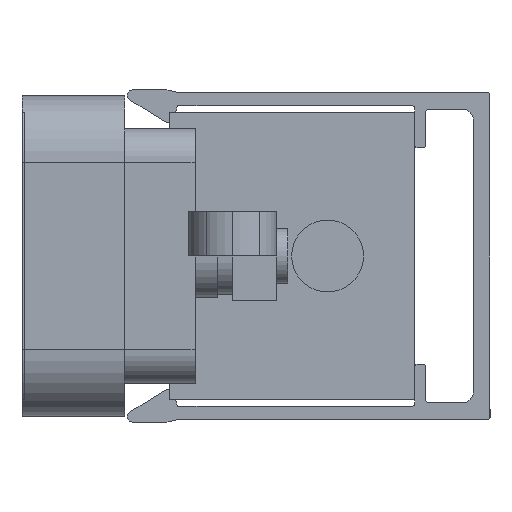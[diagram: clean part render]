
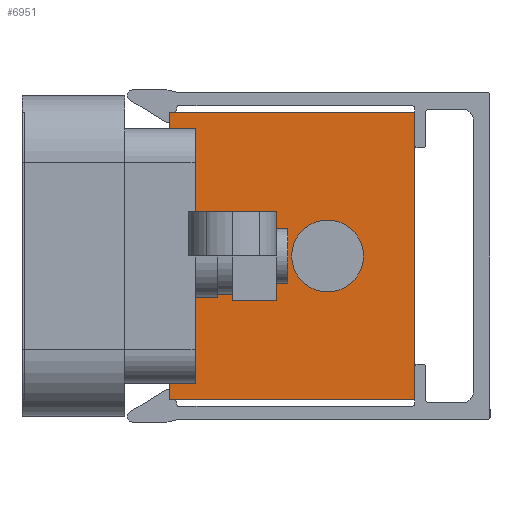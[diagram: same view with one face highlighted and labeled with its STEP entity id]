
A CAD part, left-side view. The second image highlights one B-rep face of the part: STEP entity #6951.
In plain terms, the highlighted planar face has unit normal (-1, 0, 0).
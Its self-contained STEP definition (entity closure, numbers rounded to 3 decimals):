
#47 = CARTESIAN_POINT ( 'NONE',  ( -46., 22.2, 11.5 ) ) ;
#105 = LINE ( 'NONE', #5104, #5785 ) ;
#180 = VERTEX_POINT ( 'NONE', #709 ) ;
#510 = CARTESIAN_POINT ( 'NONE',  ( -46., 19.9, -13. ) ) ;
#709 = CARTESIAN_POINT ( 'NONE',  ( -46., 19.9, 3.75 ) ) ;
#927 = CARTESIAN_POINT ( 'NONE',  ( -46., 0., 0. ) ) ;
#931 = VECTOR ( 'NONE', #4901, 1000. ) ;
#1025 = CARTESIAN_POINT ( 'NONE',  ( -46., 22.2, -13. ) ) ;
#1184 = ORIENTED_EDGE ( 'NONE', *, *, #6688, .T. ) ;
#1374 = DIRECTION ( 'NONE',  ( 0., 0., 1. ) ) ;
#1440 = DIRECTION ( 'NONE',  ( 0., 0., -1. ) ) ;
#1489 = AXIS2_PLACEMENT_3D ( 'NONE', #7501, #6134, #5563 ) ;
#1513 = DIRECTION ( 'NONE',  ( 0., -1., 0. ) ) ;
#1517 = LINE ( 'NONE', #4382, #3748 ) ;
#1525 = LINE ( 'NONE', #3936, #5809 ) ;
#1655 = CARTESIAN_POINT ( 'NONE',  ( -46., 0., 13. ) ) ;
#1660 = CARTESIAN_POINT ( 'NONE',  ( -46., 17.9, -3.75 ) ) ;
#1671 = EDGE_CURVE ( 'NONE', #6413, #6413, #4972, .T. ) ;
#1672 = EDGE_CURVE ( 'NONE', #7495, #3305, #5436, .T. ) ;
#1695 = LINE ( 'NONE', #1660, #3315 ) ;
#1806 = VECTOR ( 'NONE', #2671, 1000. ) ;
#1969 = ORIENTED_EDGE ( 'NONE', *, *, #1671, .F. ) ;
#2002 = EDGE_LOOP ( 'NONE', ( #1969 ) ) ;
#2036 = ORIENTED_EDGE ( 'NONE', *, *, #3902, .T. ) ;
#2274 = VERTEX_POINT ( 'NONE', #4978 ) ;
#2335 = VECTOR ( 'NONE', #4932, 1000. ) ;
#2342 = CARTESIAN_POINT ( 'NONE',  ( -46., 19.9, -13. ) ) ;
#2411 = CARTESIAN_POINT ( 'NONE',  ( -46., 17.9, 3.75 ) ) ;
#2511 = ORIENTED_EDGE ( 'NONE', *, *, #4470, .F. ) ;
#2525 = CARTESIAN_POINT ( 'NONE',  ( -46., 22.2, 11.5 ) ) ;
#2671 = DIRECTION ( 'NONE',  ( 0., 1., 0. ) ) ;
#2738 = LINE ( 'NONE', #4535, #7652 ) ;
#2739 = PLANE ( 'NONE',  #1489 ) ;
#2750 = VERTEX_POINT ( 'NONE', #6384 ) ;
#2822 = LINE ( 'NONE', #510, #5971 ) ;
#2926 = LINE ( 'NONE', #2342, #3417 ) ;
#2963 = EDGE_CURVE ( 'NONE', #3305, #180, #2822, .T. ) ;
#3001 = CARTESIAN_POINT ( 'NONE',  ( -46., 7.9, 0. ) ) ;
#3037 = LINE ( 'NONE', #2411, #931 ) ;
#3047 = CARTESIAN_POINT ( 'NONE',  ( -46., 22.2, 13. ) ) ;
#3126 = EDGE_LOOP ( 'NONE', ( #7417, #4206, #2511, #5975, #7577, #6839, #5945, #1184, #6872, #2036, #3675, #4046 ) ) ;
#3302 = EDGE_CURVE ( 'NONE', #5325, #2750, #2738, .T. ) ;
#3305 = VERTEX_POINT ( 'NONE', #6831 ) ;
#3315 = VECTOR ( 'NONE', #7053, 1000. ) ;
#3417 = VECTOR ( 'NONE', #5967, 1000. ) ;
#3616 = VERTEX_POINT ( 'NONE', #5577 ) ;
#3675 = ORIENTED_EDGE ( 'NONE', *, *, #1672, .T. ) ;
#3748 = VECTOR ( 'NONE', #1440, 1000. ) ;
#3901 = EDGE_CURVE ( 'NONE', #7171, #2274, #6887, .T. ) ;
#3902 = EDGE_CURVE ( 'NONE', #3616, #7495, #1525, .T. ) ;
#3936 = CARTESIAN_POINT ( 'NONE',  ( -46., 22.2, -13. ) ) ;
#4046 = ORIENTED_EDGE ( 'NONE', *, *, #2963, .T. ) ;
#4206 = ORIENTED_EDGE ( 'NONE', *, *, #6881, .T. ) ;
#4382 = CARTESIAN_POINT ( 'NONE',  ( -46., 17.9, 0. ) ) ;
#4467 = LINE ( 'NONE', #927, #4749 ) ;
#4470 = EDGE_CURVE ( 'NONE', #6852, #6941, #1695, .T. ) ;
#4535 = CARTESIAN_POINT ( 'NONE',  ( -46., 22.2, -13. ) ) ;
#4592 = VECTOR ( 'NONE', #4826, 1000. ) ;
#4749 = VECTOR ( 'NONE', #6842, 1000. ) ;
#4826 = DIRECTION ( 'NONE',  ( 0., -1., 0. ) ) ;
#4901 = DIRECTION ( 'NONE',  ( 0., 1., 0. ) ) ;
#4932 = DIRECTION ( 'NONE',  ( 0., -1., 0. ) ) ;
#4972 = CIRCLE ( 'NONE', #5715, 3.25 ) ;
#4978 = CARTESIAN_POINT ( 'NONE',  ( -46., 22.2, -11.5 ) ) ;
#4988 = VERTEX_POINT ( 'NONE', #1655 ) ;
#5033 = DIRECTION ( 'NONE',  ( 0., 0., -1. ) ) ;
#5104 = CARTESIAN_POINT ( 'NONE',  ( -46., 22.2, 0. ) ) ;
#5162 = CARTESIAN_POINT ( 'NONE',  ( -46., 19.9, -3.75 ) ) ;
#5235 = DIRECTION ( 'NONE',  ( 0., 0., -1. ) ) ;
#5274 = CARTESIAN_POINT ( 'NONE',  ( -46., 7.9, 3.25 ) ) ;
#5280 = EDGE_CURVE ( 'NONE', #3616, #4988, #6527, .T. ) ;
#5325 = VERTEX_POINT ( 'NONE', #1025 ) ;
#5436 = LINE ( 'NONE', #2525, #2335 ) ;
#5450 = CARTESIAN_POINT ( 'NONE',  ( -46., 17.9, 3.75 ) ) ;
#5563 = DIRECTION ( 'NONE',  ( 0., 0., 1. ) ) ;
#5577 = CARTESIAN_POINT ( 'NONE',  ( -46., 22.2, 13. ) ) ;
#5715 = AXIS2_PLACEMENT_3D ( 'NONE', #3001, #6704, #7170 ) ;
#5718 = FACE_OUTER_BOUND ( 'NONE', #3126, .T. ) ;
#5728 = EDGE_CURVE ( 'NONE', #6852, #7171, #2926, .T. ) ;
#5785 = VECTOR ( 'NONE', #1374, 1000. ) ;
#5809 = VECTOR ( 'NONE', #5033, 1000. ) ;
#5945 = ORIENTED_EDGE ( 'NONE', *, *, #3302, .T. ) ;
#5967 = DIRECTION ( 'NONE',  ( 0., 0., -1. ) ) ;
#5971 = VECTOR ( 'NONE', #5235, 1000. ) ;
#5975 = ORIENTED_EDGE ( 'NONE', *, *, #5728, .T. ) ;
#6134 = DIRECTION ( 'NONE',  ( -1., 0., 0. ) ) ;
#6212 = VERTEX_POINT ( 'NONE', #5450 ) ;
#6217 = EDGE_CURVE ( 'NONE', #5325, #2274, #105, .T. ) ;
#6278 = FACE_BOUND ( 'NONE', #2002, .T. ) ;
#6384 = CARTESIAN_POINT ( 'NONE',  ( -46., 0., -13. ) ) ;
#6413 = VERTEX_POINT ( 'NONE', #5274 ) ;
#6505 = EDGE_CURVE ( 'NONE', #6212, #180, #3037, .T. ) ;
#6527 = LINE ( 'NONE', #3047, #4592 ) ;
#6688 = EDGE_CURVE ( 'NONE', #2750, #4988, #4467, .T. ) ;
#6704 = DIRECTION ( 'NONE',  ( -1., 0., 0. ) ) ;
#6831 = CARTESIAN_POINT ( 'NONE',  ( -46., 19.9, 11.5 ) ) ;
#6839 = ORIENTED_EDGE ( 'NONE', *, *, #6217, .F. ) ;
#6842 = DIRECTION ( 'NONE',  ( 0., 0., 1. ) ) ;
#6852 = VERTEX_POINT ( 'NONE', #5162 ) ;
#6872 = ORIENTED_EDGE ( 'NONE', *, *, #5280, .F. ) ;
#6881 = EDGE_CURVE ( 'NONE', #6212, #6941, #1517, .T. ) ;
#6887 = LINE ( 'NONE', #7350, #1806 ) ;
#6941 = VERTEX_POINT ( 'NONE', #7379 ) ;
#6951 = ADVANCED_FACE ( 'NONE', ( #6278, #5718 ), #2739, .T. ) ;
#7053 = DIRECTION ( 'NONE',  ( 0., -1., 0. ) ) ;
#7139 = CARTESIAN_POINT ( 'NONE',  ( -46., 19.9, -11.5 ) ) ;
#7170 = DIRECTION ( 'NONE',  ( 0., 0., 1. ) ) ;
#7171 = VERTEX_POINT ( 'NONE', #7139 ) ;
#7350 = CARTESIAN_POINT ( 'NONE',  ( -46., 22.2, -11.5 ) ) ;
#7379 = CARTESIAN_POINT ( 'NONE',  ( -46., 17.9, -3.75 ) ) ;
#7417 = ORIENTED_EDGE ( 'NONE', *, *, #6505, .F. ) ;
#7495 = VERTEX_POINT ( 'NONE', #47 ) ;
#7501 = CARTESIAN_POINT ( 'NONE',  ( -46., 22.2, -13. ) ) ;
#7577 = ORIENTED_EDGE ( 'NONE', *, *, #3901, .T. ) ;
#7652 = VECTOR ( 'NONE', #1513, 1000. ) ;
